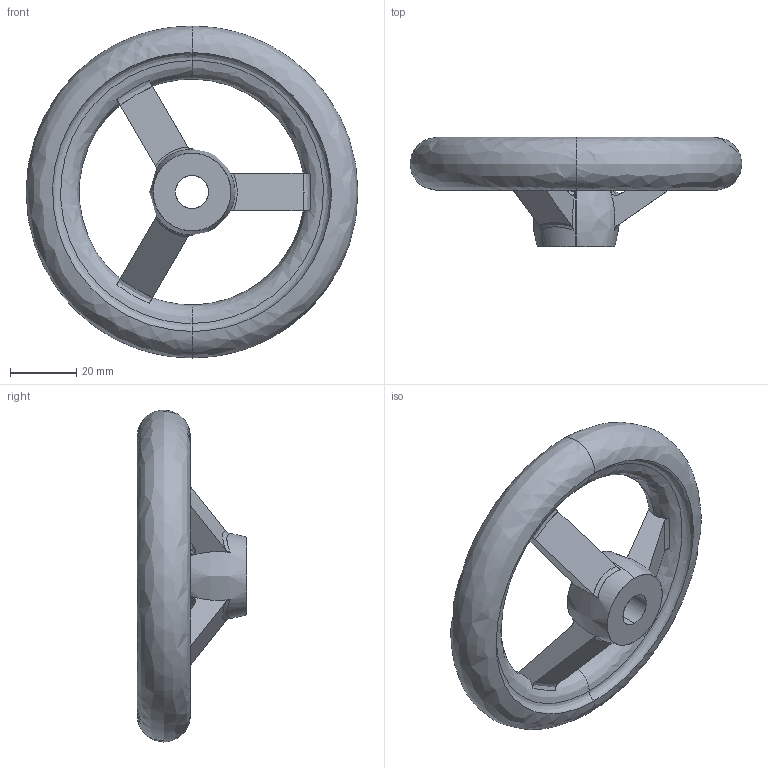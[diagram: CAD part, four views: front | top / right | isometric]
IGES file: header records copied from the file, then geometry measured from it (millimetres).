
Start section: SolidWorks IGES file using analytic representation for surfaces
Global section: file name: C:\Users\IanO\Desktop\Temp File\Process pending\77120_v2\77120_v2_20171108_IGES\77120.W0005.igs; native system: SolidWorks 2017; preprocessor: SolidWorks 2017; author: IanO; date: 171108.083017; units: millimetre
Bounding box: 100 x 33 x 100 mm (x, y, z)
Surface area: 18275.8 mm2 (no closed solid volume)
Topology: 0 solids, 0 shells, 49 faces, 789 edges, 782 vertices
Faces by surface type: bspline 47, revolution 2
